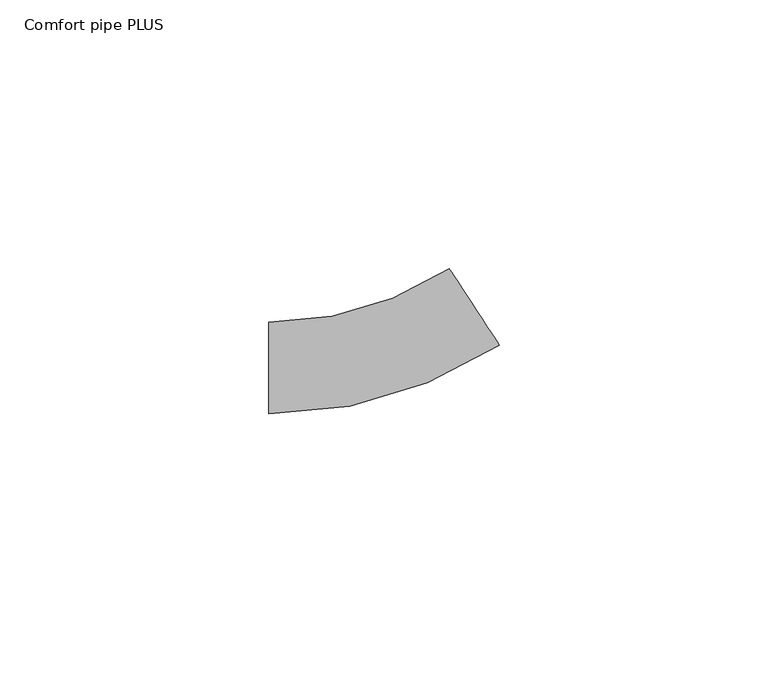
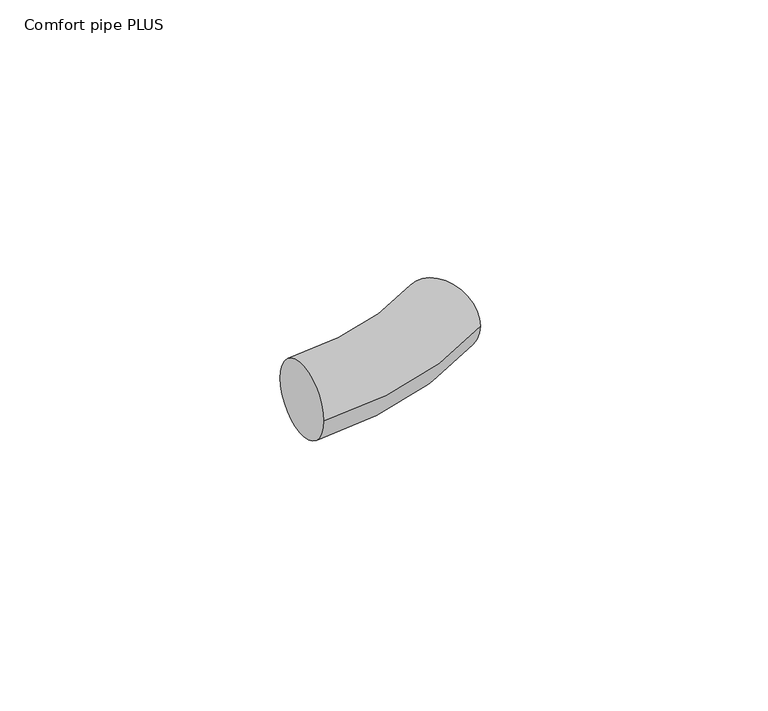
"""IFC4 building model written with IfcOpenShell, lengths in millimetres: pipe fitting geometry, 400_5-_Uponor_curved_Elbow : Comfort pipe PLUS."""

from ifc_helpers import new_model, si_unit, point, frame, origin, place, context, project, spatial, circle_curve, ellipse_curve, trimmed, source, transform, mapped, element, save
from ifc_brep_helpers import plane_surface, revolved_surface, advanced_brep


def comfort_pipe_plus_e7852c11(model_context):
    return source(origin(), model_context, "Body", "AdvancedBrep", [
        advanced_brep(
        [(-20.821401, -8.5, 0.0), (-20.821401, 8.5, 0.0), (22.0821104, 4.2615887, 0.0), (12.7909041, 18.4979326, 0.0)],
        [
            (0, 1, circle_curve(frame((-20.821401, 0.0, 0.0), z_axis=(-1.0, 0.0, 0.0), x_axis=(0.0, 1.0, 0.0)), 8.5)),
            (1, 0, circle_curve(frame((-20.821401, 0.0, 0.0), z_axis=(-1.0, 0.0, 0.0), x_axis=(0.0, 1.0, 0.0)), 8.5)),
            (2, 3, circle_curve(frame((17.4365072, 11.3797607, 0.0), z_axis=(0.8374319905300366, 0.5465415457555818, 0.0), x_axis=(-0.5465415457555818, 0.8374319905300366, 0.0)), 8.5)),
            (3, 2, circle_curve(frame((17.4365072, 11.3797607, 0.0), z_axis=(0.8374319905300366, 0.5465415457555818, 0.0), x_axis=(-0.5465415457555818, 0.8374319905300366, 0.0)), 8.5)),
            (3, 1, circle_curve(frame((-20.821401, 70.0, 0.0), z_axis=(0.0, 0.0, -1.0), x_axis=(0.0, -1.0, 0.0)), 61.5)),
            (0, 2, circle_curve(frame((-20.821401, 70.0, 0.0), z_axis=(0.0, 0.0, 1.0), x_axis=(0.0, -1.0, 0.0)), 78.5)),
        ],
        [
            plane_surface(frame((-20.821401, 0.0, 0.0), z_axis=(-1.0, 0.0, 0.0), x_axis=(0.0, 0.0, 1.0))),
            plane_surface(frame((17.4365072, 11.3797607, 0.0), z_axis=(0.8374319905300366, 0.546541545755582, 0.0), x_axis=(0.0, 0.0, 1.0))),
            revolved_surface(trimmed(ellipse_curve(frame((-20.821401, 0.0, 0.0), z_axis=(-1.0, 0.0, 0.0), x_axis=(0.0, 1.0, 0.0)), 8.5, 8.5), [point((-20.821401, -8.5, 0.0))], [point((-20.821401, 8.5, 0.0))], True, "CARTESIAN"), (-20.821401, 70.0, 0.0), (0.0, 0.0, 1.0)),
            revolved_surface(trimmed(ellipse_curve(frame((-20.821401, 0.0, 0.0), z_axis=(-1.0, 0.0, 0.0), x_axis=(0.0, 1.0, 0.0)), 8.5, 8.5), [point((-20.821401, 8.5, 0.0))], [point((-20.821401, -8.5, 0.0))], True, "CARTESIAN"), (-20.821401, 70.0, 0.0), (0.0, 0.0, 1.0)),
        ],
        [
            (0, [[1, 2]]),
            (1, [[3, 4]]),
            (2, [[5, -1, 6, -4]]),
            (3, [[-6, -2, -5, -3]]),
        ],
    ),
    ])


if __name__ == "__main__":
    model = new_model("IFC4")
    model_context = context("Model", 3, world=origin())
    ifc_project = project(units=[si_unit("LENGTHUNIT", "METRE", prefix="MILLI")], contexts=[model_context])
    site = spatial("IfcSite", under=ifc_project)
    building = spatial("IfcBuilding", under=site)
    placement = place(None, origin())
    comfort_pipe_plus_shape = comfort_pipe_plus_e7852c11(model_context)
    element("IfcPipeFitting", 1, ObjectType="400_5-_Uponor_curved_Elbow : Comfort pipe PLUS", at=placement, inside=building, context=model_context, shape_type="MappedRepresentation", body=[
        mapped(comfort_pipe_plus_shape, transform((0.0, 0.0, 0.0), x_axis=(1.0, 0.0, 0.0), y_axis=(0.0, 1.0, 0.0), z_axis=(0.0, 0.0, 1.0))),
    ])
    save(model, "model.ifc")
